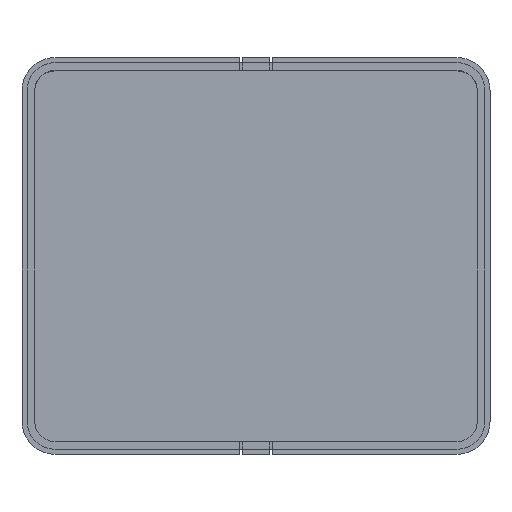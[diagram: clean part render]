
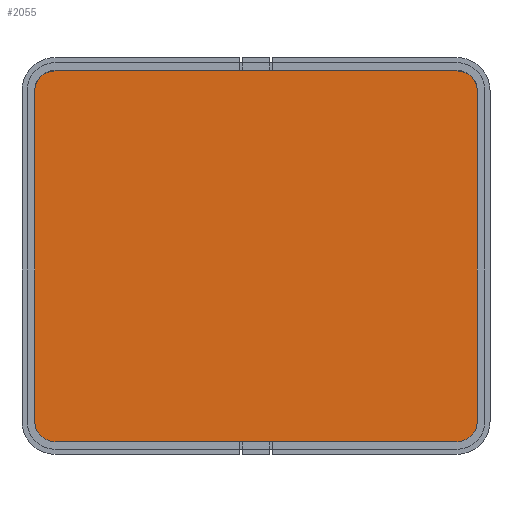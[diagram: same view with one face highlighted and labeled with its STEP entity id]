
A CAD part, top view. The second image highlights one B-rep face of the part: STEP entity #2055.
In plain terms, the highlighted planar face has unit normal (0, 0, 1).
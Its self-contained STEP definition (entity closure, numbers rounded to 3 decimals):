
#147 = PLANE('',#148);
#148 = AXIS2_PLACEMENT_3D('',#149,#150,#151);
#149 = CARTESIAN_POINT('',(134.,32.,32.));
#150 = DIRECTION('',(0.,1.,0.));
#151 = DIRECTION('',(0.,0.,1.));
#176 = CYLINDRICAL_SURFACE('',#177,4.);
#177 = AXIS2_PLACEMENT_3D('',#178,#179,#180);
#178 = CARTESIAN_POINT('',(138.,36.,32.));
#179 = DIRECTION('',(0.,0.,1.));
#180 = DIRECTION('',(-1.,-0.,0.));
#204 = PLANE('',#205);
#205 = AXIS2_PLACEMENT_3D('',#206,#207,#208);
#206 = CARTESIAN_POINT('',(134.,32.,32.));
#207 = DIRECTION('',(1.,0.,0.));
#208 = DIRECTION('',(0.,0.,1.));
#233 = CYLINDRICAL_SURFACE('',#234,4.);
#234 = AXIS2_PLACEMENT_3D('',#235,#236,#237);
#235 = CARTESIAN_POINT('',(138.,101.,32.));
#236 = DIRECTION('',(0.,0.,1.));
#237 = DIRECTION('',(-1.,-0.,0.));
#261 = PLANE('',#262);
#262 = AXIS2_PLACEMENT_3D('',#263,#264,#265);
#263 = CARTESIAN_POINT('',(134.,105.,32.));
#264 = DIRECTION('',(0.,1.,0.));
#265 = DIRECTION('',(0.,0.,1.));
#688 = EDGE_CURVE('',#689,#691,#693,.T.);
#689 = VERTEX_POINT('',#690);
#690 = CARTESIAN_POINT('',(138.,105.,32.));
#691 = VERTEX_POINT('',#692);
#692 = CARTESIAN_POINT('',(217.,105.,32.));
#693 = SURFACE_CURVE('',#694,(#698,#705),.PCURVE_S1.);
#694 = LINE('',#695,#696);
#695 = CARTESIAN_POINT('',(134.,105.,32.));
#696 = VECTOR('',#697,1.);
#697 = DIRECTION('',(1.,0.,0.));
#698 = PCURVE('',#261,#699);
#699 = DEFINITIONAL_REPRESENTATION('',(#700),#704);
#700 = LINE('',#701,#702);
#701 = CARTESIAN_POINT('',(0.,0.));
#702 = VECTOR('',#703,1.);
#703 = DIRECTION('',(0.,1.));
#704 = ( GEOMETRIC_REPRESENTATION_CONTEXT(2) 
PARAMETRIC_REPRESENTATION_CONTEXT() REPRESENTATION_CONTEXT('2D SPACE',''
  ) );
#705 = PCURVE('',#706,#711);
#706 = PLANE('',#707);
#707 = AXIS2_PLACEMENT_3D('',#708,#709,#710);
#708 = CARTESIAN_POINT('',(134.,32.,32.));
#709 = DIRECTION('',(0.,0.,1.));
#710 = DIRECTION('',(1.,0.,0.));
#711 = DEFINITIONAL_REPRESENTATION('',(#712),#716);
#712 = LINE('',#713,#714);
#713 = CARTESIAN_POINT('',(0.,73.));
#714 = VECTOR('',#715,1.);
#715 = DIRECTION('',(1.,0.));
#716 = ( GEOMETRIC_REPRESENTATION_CONTEXT(2) 
PARAMETRIC_REPRESENTATION_CONTEXT() REPRESENTATION_CONTEXT('2D SPACE',''
  ) );
#946 = CYLINDRICAL_SURFACE('',#947,4.);
#947 = AXIS2_PLACEMENT_3D('',#948,#949,#950);
#948 = CARTESIAN_POINT('',(217.,101.,32.));
#949 = DIRECTION('',(0.,0.,1.));
#950 = DIRECTION('',(1.,0.,-0.));
#962 = VERTEX_POINT('',#963);
#963 = CARTESIAN_POINT('',(134.,101.,32.));
#984 = EDGE_CURVE('',#962,#689,#985,.T.);
#985 = SURFACE_CURVE('',#986,(#991,#998),.PCURVE_S1.);
#986 = CIRCLE('',#987,4.);
#987 = AXIS2_PLACEMENT_3D('',#988,#989,#990);
#988 = CARTESIAN_POINT('',(138.,101.,32.));
#989 = DIRECTION('',(-0.,-0.,-1.));
#990 = DIRECTION('',(0.,-1.,0.));
#991 = PCURVE('',#233,#992);
#992 = DEFINITIONAL_REPRESENTATION('',(#993),#997);
#993 = LINE('',#994,#995);
#994 = CARTESIAN_POINT('',(1.571,-0.));
#995 = VECTOR('',#996,1.);
#996 = DIRECTION('',(-1.,0.));
#997 = ( GEOMETRIC_REPRESENTATION_CONTEXT(2) 
PARAMETRIC_REPRESENTATION_CONTEXT() REPRESENTATION_CONTEXT('2D SPACE',''
  ) );
#998 = PCURVE('',#706,#999);
#999 = DEFINITIONAL_REPRESENTATION('',(#1000),#1008);
#1000 = ( BOUNDED_CURVE() B_SPLINE_CURVE(2,(#1001,#1002,#1003,#1004,
#1005,#1006,#1007),.UNSPECIFIED.,.T.,.F.) B_SPLINE_CURVE_WITH_KNOTS((1,2
    ,2,2,2,1),(-2.094,0.,2.094,4.189,
6.283,8.378),.UNSPECIFIED.) CURVE() 
GEOMETRIC_REPRESENTATION_ITEM() RATIONAL_B_SPLINE_CURVE((1.,0.5,1.,0.5,
1.,0.5,1.)) REPRESENTATION_ITEM('') );
#1001 = CARTESIAN_POINT('',(4.,65.));
#1002 = CARTESIAN_POINT('',(-2.928,65.));
#1003 = CARTESIAN_POINT('',(0.536,71.));
#1004 = CARTESIAN_POINT('',(4.,77.));
#1005 = CARTESIAN_POINT('',(7.464,71.));
#1006 = CARTESIAN_POINT('',(10.928,65.));
#1007 = CARTESIAN_POINT('',(4.,65.));
#1008 = ( GEOMETRIC_REPRESENTATION_CONTEXT(2) 
PARAMETRIC_REPRESENTATION_CONTEXT() REPRESENTATION_CONTEXT('2D SPACE',''
  ) );
#1017 = VERTEX_POINT('',#1018);
#1018 = CARTESIAN_POINT('',(134.,36.,32.));
#1039 = EDGE_CURVE('',#1017,#962,#1040,.T.);
#1040 = SURFACE_CURVE('',#1041,(#1045,#1052),.PCURVE_S1.);
#1041 = LINE('',#1042,#1043);
#1042 = CARTESIAN_POINT('',(134.,32.,32.));
#1043 = VECTOR('',#1044,1.);
#1044 = DIRECTION('',(0.,1.,0.));
#1045 = PCURVE('',#204,#1046);
#1046 = DEFINITIONAL_REPRESENTATION('',(#1047),#1051);
#1047 = LINE('',#1048,#1049);
#1048 = CARTESIAN_POINT('',(0.,0.));
#1049 = VECTOR('',#1050,1.);
#1050 = DIRECTION('',(0.,-1.));
#1051 = ( GEOMETRIC_REPRESENTATION_CONTEXT(2) 
PARAMETRIC_REPRESENTATION_CONTEXT() REPRESENTATION_CONTEXT('2D SPACE',''
  ) );
#1052 = PCURVE('',#706,#1053);
#1053 = DEFINITIONAL_REPRESENTATION('',(#1054),#1058);
#1054 = LINE('',#1055,#1056);
#1055 = CARTESIAN_POINT('',(0.,0.));
#1056 = VECTOR('',#1057,1.);
#1057 = DIRECTION('',(0.,1.));
#1058 = ( GEOMETRIC_REPRESENTATION_CONTEXT(2) 
PARAMETRIC_REPRESENTATION_CONTEXT() REPRESENTATION_CONTEXT('2D SPACE',''
  ) );
#1065 = EDGE_CURVE('',#1017,#1066,#1068,.T.);
#1066 = VERTEX_POINT('',#1067);
#1067 = CARTESIAN_POINT('',(138.,32.,32.));
#1068 = SURFACE_CURVE('',#1069,(#1074,#1081),.PCURVE_S1.);
#1069 = CIRCLE('',#1070,4.);
#1070 = AXIS2_PLACEMENT_3D('',#1071,#1072,#1073);
#1071 = CARTESIAN_POINT('',(138.,36.,32.));
#1072 = DIRECTION('',(0.,0.,1.));
#1073 = DIRECTION('',(0.,-1.,0.));
#1074 = PCURVE('',#176,#1075);
#1075 = DEFINITIONAL_REPRESENTATION('',(#1076),#1080);
#1076 = LINE('',#1077,#1078);
#1077 = CARTESIAN_POINT('',(-4.712,0.));
#1078 = VECTOR('',#1079,1.);
#1079 = DIRECTION('',(1.,0.));
#1080 = ( GEOMETRIC_REPRESENTATION_CONTEXT(2) 
PARAMETRIC_REPRESENTATION_CONTEXT() REPRESENTATION_CONTEXT('2D SPACE',''
  ) );
#1081 = PCURVE('',#706,#1082);
#1082 = DEFINITIONAL_REPRESENTATION('',(#1083),#1087);
#1083 = CIRCLE('',#1084,4.);
#1084 = AXIS2_PLACEMENT_2D('',#1085,#1086);
#1085 = CARTESIAN_POINT('',(4.,4.));
#1086 = DIRECTION('',(0.,-1.));
#1087 = ( GEOMETRIC_REPRESENTATION_CONTEXT(2) 
PARAMETRIC_REPRESENTATION_CONTEXT() REPRESENTATION_CONTEXT('2D SPACE',''
  ) );
#1114 = EDGE_CURVE('',#1066,#1115,#1117,.T.);
#1115 = VERTEX_POINT('',#1116);
#1116 = CARTESIAN_POINT('',(217.,32.,32.));
#1117 = SURFACE_CURVE('',#1118,(#1122,#1129),.PCURVE_S1.);
#1118 = LINE('',#1119,#1120);
#1119 = CARTESIAN_POINT('',(134.,32.,32.));
#1120 = VECTOR('',#1121,1.);
#1121 = DIRECTION('',(1.,0.,0.));
#1122 = PCURVE('',#147,#1123);
#1123 = DEFINITIONAL_REPRESENTATION('',(#1124),#1128);
#1124 = LINE('',#1125,#1126);
#1125 = CARTESIAN_POINT('',(0.,0.));
#1126 = VECTOR('',#1127,1.);
#1127 = DIRECTION('',(0.,1.));
#1128 = ( GEOMETRIC_REPRESENTATION_CONTEXT(2) 
PARAMETRIC_REPRESENTATION_CONTEXT() REPRESENTATION_CONTEXT('2D SPACE',''
  ) );
#1129 = PCURVE('',#706,#1130);
#1130 = DEFINITIONAL_REPRESENTATION('',(#1131),#1135);
#1131 = LINE('',#1132,#1133);
#1132 = CARTESIAN_POINT('',(0.,0.));
#1133 = VECTOR('',#1134,1.);
#1134 = DIRECTION('',(1.,0.));
#1135 = ( GEOMETRIC_REPRESENTATION_CONTEXT(2) 
PARAMETRIC_REPRESENTATION_CONTEXT() REPRESENTATION_CONTEXT('2D SPACE',''
  ) );
#1367 = CYLINDRICAL_SURFACE('',#1368,4.);
#1368 = AXIS2_PLACEMENT_3D('',#1369,#1370,#1371);
#1369 = CARTESIAN_POINT('',(217.,36.,32.));
#1370 = DIRECTION('',(0.,0.,1.));
#1371 = DIRECTION('',(1.,0.,-0.));
#2055 = ADVANCED_FACE('',(#2056),#706,.T.);
#2056 = FACE_BOUND('',#2057,.T.);
#2057 = EDGE_LOOP('',(#2058,#2059,#2060,#2061,#2089,#2117,#2139,#2140));
#2058 = ORIENTED_EDGE('',*,*,#1039,.F.);
#2059 = ORIENTED_EDGE('',*,*,#1065,.T.);
#2060 = ORIENTED_EDGE('',*,*,#1114,.T.);
#2061 = ORIENTED_EDGE('',*,*,#2062,.F.);
#2062 = EDGE_CURVE('',#2063,#1115,#2065,.T.);
#2063 = VERTEX_POINT('',#2064);
#2064 = CARTESIAN_POINT('',(221.,36.,32.));
#2065 = SURFACE_CURVE('',#2066,(#2071,#2082),.PCURVE_S1.);
#2066 = CIRCLE('',#2067,4.);
#2067 = AXIS2_PLACEMENT_3D('',#2068,#2069,#2070);
#2068 = CARTESIAN_POINT('',(217.,36.,32.));
#2069 = DIRECTION('',(-0.,-0.,-1.));
#2070 = DIRECTION('',(0.,-1.,0.));
#2071 = PCURVE('',#706,#2072);
#2072 = DEFINITIONAL_REPRESENTATION('',(#2073),#2081);
#2073 = ( BOUNDED_CURVE() B_SPLINE_CURVE(2,(#2074,#2075,#2076,#2077,
#2078,#2079,#2080),.UNSPECIFIED.,.T.,.F.) B_SPLINE_CURVE_WITH_KNOTS((1,2
    ,2,2,2,1),(-2.094,0.,2.094,4.189,
6.283,8.378),.UNSPECIFIED.) CURVE() 
GEOMETRIC_REPRESENTATION_ITEM() RATIONAL_B_SPLINE_CURVE((1.,0.5,1.,0.5,
1.,0.5,1.)) REPRESENTATION_ITEM('') );
#2074 = CARTESIAN_POINT('',(83.,0.));
#2075 = CARTESIAN_POINT('',(76.072,0.));
#2076 = CARTESIAN_POINT('',(79.536,6.));
#2077 = CARTESIAN_POINT('',(83.,12.));
#2078 = CARTESIAN_POINT('',(86.464,6.));
#2079 = CARTESIAN_POINT('',(89.928,0.));
#2080 = CARTESIAN_POINT('',(83.,0.));
#2081 = ( GEOMETRIC_REPRESENTATION_CONTEXT(2) 
PARAMETRIC_REPRESENTATION_CONTEXT() REPRESENTATION_CONTEXT('2D SPACE',''
  ) );
#2082 = PCURVE('',#1367,#2083);
#2083 = DEFINITIONAL_REPRESENTATION('',(#2084),#2088);
#2084 = LINE('',#2085,#2086);
#2085 = CARTESIAN_POINT('',(4.712,-0.));
#2086 = VECTOR('',#2087,1.);
#2087 = DIRECTION('',(-1.,0.));
#2088 = ( GEOMETRIC_REPRESENTATION_CONTEXT(2) 
PARAMETRIC_REPRESENTATION_CONTEXT() REPRESENTATION_CONTEXT('2D SPACE',''
  ) );
#2089 = ORIENTED_EDGE('',*,*,#2090,.T.);
#2090 = EDGE_CURVE('',#2063,#2091,#2093,.T.);
#2091 = VERTEX_POINT('',#2092);
#2092 = CARTESIAN_POINT('',(221.,101.,32.));
#2093 = SURFACE_CURVE('',#2094,(#2098,#2105),.PCURVE_S1.);
#2094 = LINE('',#2095,#2096);
#2095 = CARTESIAN_POINT('',(221.,32.,32.));
#2096 = VECTOR('',#2097,1.);
#2097 = DIRECTION('',(0.,1.,0.));
#2098 = PCURVE('',#706,#2099);
#2099 = DEFINITIONAL_REPRESENTATION('',(#2100),#2104);
#2100 = LINE('',#2101,#2102);
#2101 = CARTESIAN_POINT('',(87.,0.));
#2102 = VECTOR('',#2103,1.);
#2103 = DIRECTION('',(0.,1.));
#2104 = ( GEOMETRIC_REPRESENTATION_CONTEXT(2) 
PARAMETRIC_REPRESENTATION_CONTEXT() REPRESENTATION_CONTEXT('2D SPACE',''
  ) );
#2105 = PCURVE('',#2106,#2111);
#2106 = PLANE('',#2107);
#2107 = AXIS2_PLACEMENT_3D('',#2108,#2109,#2110);
#2108 = CARTESIAN_POINT('',(221.,32.,32.));
#2109 = DIRECTION('',(1.,0.,0.));
#2110 = DIRECTION('',(0.,0.,1.));
#2111 = DEFINITIONAL_REPRESENTATION('',(#2112),#2116);
#2112 = LINE('',#2113,#2114);
#2113 = CARTESIAN_POINT('',(0.,0.));
#2114 = VECTOR('',#2115,1.);
#2115 = DIRECTION('',(0.,-1.));
#2116 = ( GEOMETRIC_REPRESENTATION_CONTEXT(2) 
PARAMETRIC_REPRESENTATION_CONTEXT() REPRESENTATION_CONTEXT('2D SPACE',''
  ) );
#2117 = ORIENTED_EDGE('',*,*,#2118,.T.);
#2118 = EDGE_CURVE('',#2091,#691,#2119,.T.);
#2119 = SURFACE_CURVE('',#2120,(#2125,#2132),.PCURVE_S1.);
#2120 = CIRCLE('',#2121,4.);
#2121 = AXIS2_PLACEMENT_3D('',#2122,#2123,#2124);
#2122 = CARTESIAN_POINT('',(217.,101.,32.));
#2123 = DIRECTION('',(0.,0.,1.));
#2124 = DIRECTION('',(0.,-1.,0.));
#2125 = PCURVE('',#706,#2126);
#2126 = DEFINITIONAL_REPRESENTATION('',(#2127),#2131);
#2127 = CIRCLE('',#2128,4.);
#2128 = AXIS2_PLACEMENT_2D('',#2129,#2130);
#2129 = CARTESIAN_POINT('',(83.,69.));
#2130 = DIRECTION('',(0.,-1.));
#2131 = ( GEOMETRIC_REPRESENTATION_CONTEXT(2) 
PARAMETRIC_REPRESENTATION_CONTEXT() REPRESENTATION_CONTEXT('2D SPACE',''
  ) );
#2132 = PCURVE('',#946,#2133);
#2133 = DEFINITIONAL_REPRESENTATION('',(#2134),#2138);
#2134 = LINE('',#2135,#2136);
#2135 = CARTESIAN_POINT('',(-1.571,0.));
#2136 = VECTOR('',#2137,1.);
#2137 = DIRECTION('',(1.,0.));
#2138 = ( GEOMETRIC_REPRESENTATION_CONTEXT(2) 
PARAMETRIC_REPRESENTATION_CONTEXT() REPRESENTATION_CONTEXT('2D SPACE',''
  ) );
#2139 = ORIENTED_EDGE('',*,*,#688,.F.);
#2140 = ORIENTED_EDGE('',*,*,#984,.F.);
